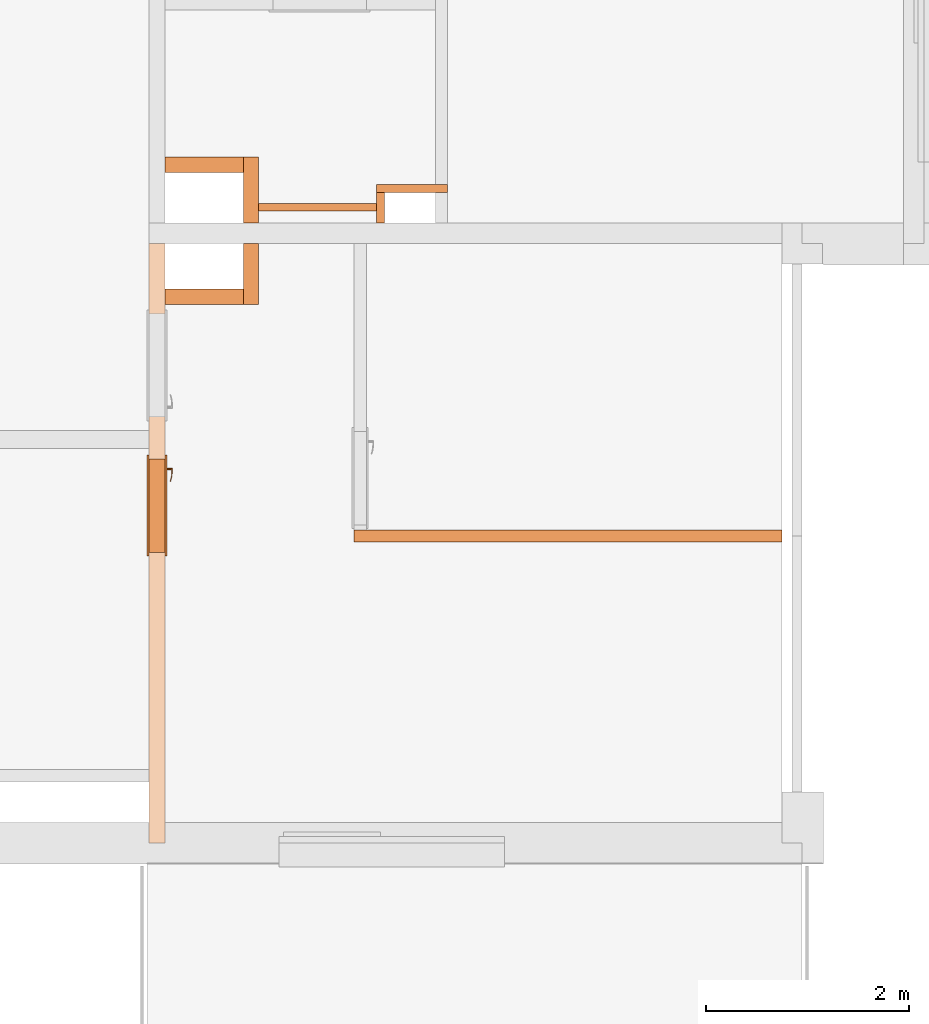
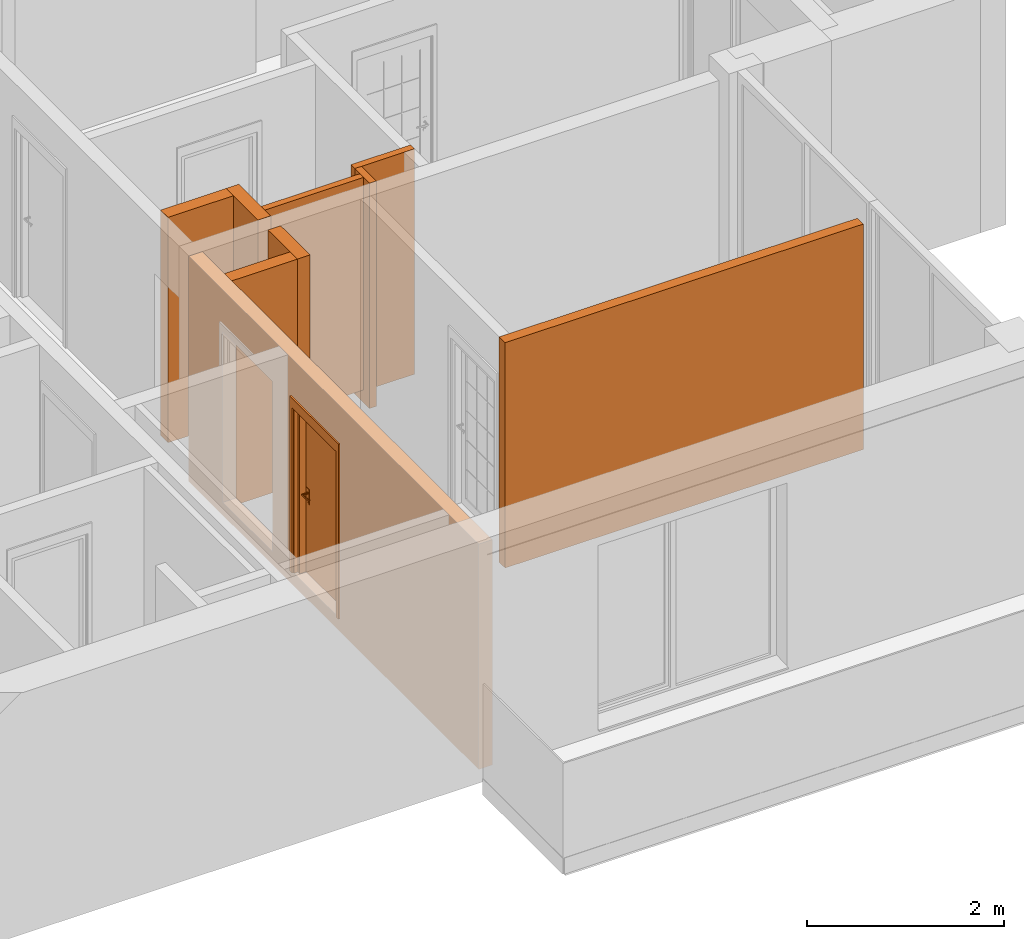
# One storey, part 62 of 64: 9 proxies, 2 openings, plus 1 element that does not belong to this part.
"""IFC2X3 building model written with IfcOpenShell, lengths in millimetres."""

import ifcopenshell
import ifcopenshell.guid

model = None  # the IFC model being written
_history = None  # IfcOwnerHistory: only IFC2X3 demands one
_inside = {}  # id of a spatial element -> (the spatial element, [elements in it])
_under = {}  # id of a project, library or spatial element -> (it, [spatial elements below it])
_declared = {}  # id of a project -> (the project, [libraries it declares])
_typed = {}  # id of a type object -> (the type object, [elements of that type])
_made_of = {}  # id of a material, layer set ... -> (it, [elements and type objects made of it])


def new_model(schema):
    """Start an empty IFC model of exactly this schema.

    Asked for "IFC4X3", IfcOpenShell would pick the latest addendum, in which some entities
    have other attributes; the version numbers below select the first issue.
    IFC2X3 requires an IfcOwnerHistory on every rooted entity: one is made here for all.
    """
    global model, _history
    if schema == "IFC4X3":
        model = ifcopenshell.file(schema_version=(4, 3, 0, 0))
    else:
        model = ifcopenshell.file(schema=schema)
    _inside.clear()
    _under.clear()
    _declared.clear()
    _typed.clear()
    _made_of.clear()
    _history = None
    if model.schema == "IFC2X3":
        org = make("IfcOrganization", Name="unknown")
        user = make(
            "IfcPersonAndOrganization",
            ThePerson=make("IfcPerson", FamilyName="unknown"),
            TheOrganization=org,
        )
        app = make(
            "IfcApplication",
            ApplicationDeveloper=org,
            Version="unknown",
            ApplicationFullName="unknown",
            ApplicationIdentifier="unknown",
        )
        _history = make(
            "IfcOwnerHistory",
            OwningUser=user,
            OwningApplication=app,
            ChangeAction="ADDED",
            CreationDate=0,
        )
    return model


def make(cls, **values):
    """One entity of the class cls with the attributes given. An attribute that is None is left unset."""
    return model.create_entity(
        cls, **{name: value for name, value in values.items() if value is not None}
    )


def entity(cls, *values):
    """Any entity or typed value of the class cls, its attributes in the order of the schema. None: left unset."""
    e = model.create_entity(cls)
    for i, value in enumerate(values):
        if value is not None:
            e[i] = value
    return e


def rooted(cls, **values):
    """An entity with a GlobalId (a new one), such as an element, a storey or a relation."""
    return make(cls, GlobalId=ifcopenshell.guid.new(), OwnerHistory=_history, **values)


def si_unit(unit_type, name, prefix=None):
    """IfcSIUnit, for example si_unit("LENGTHUNIT", "METRE", prefix="MILLI")."""
    return make("IfcSIUnit", UnitType=unit_type, Prefix=prefix, Name=name)


def converted_unit(unit_type, name, factor, base, dimensions=None, offset=None):
    """IfcConversionBasedUnit, such as the inch: factor (a typed value) times the base unit."""
    return make(
        "IfcConversionBasedUnit"
        if offset is None
        else "IfcConversionBasedUnitWithOffset",
        ConversionOffset=offset,
        Dimensions=None
        if dimensions is None
        else entity("IfcDimensionalExponents", *dimensions),
        UnitType=unit_type,
        Name=name,
        ConversionFactor=make(
            "IfcMeasureWithUnit", ValueComponent=factor, UnitComponent=base
        ),
    )


def derived_unit(unit_type, elements):
    """IfcDerivedUnit: a product of units, each with its exponent."""
    return make(
        "IfcDerivedUnit",
        Elements=[
            make("IfcDerivedUnitElement", Unit=unit, Exponent=power)
            for unit, power in elements
        ],
        UnitType=unit_type,
    )


def money_unit(currency):
    """IfcMonetaryUnit."""
    return make("IfcMonetaryUnit", Currency=currency)


def assignment(units):
    """IfcUnitAssignment: the units of a project."""
    return None if units is None else make("IfcUnitAssignment", Units=units)


def point(xyz):
    """IfcCartesianPoint."""
    return None if xyz is None else make("IfcCartesianPoint", Coordinates=xyz)


def direction(xyz):
    """IfcDirection."""
    return None if xyz is None else make("IfcDirection", DirectionRatios=xyz)


def frame(location, z_axis=None, x_axis=None):
    """IfcAxis2Placement3D, a coordinate frame: its origin and axes. An axis left out is left unset."""
    return make(
        "IfcAxis2Placement3D",
        Location=point(location),
        Axis=direction(z_axis),
        RefDirection=direction(x_axis),
    )


def frame_2d(location, x_axis=None):
    """IfcAxis2Placement2D, a coordinate frame in the plane: its origin and x axis."""
    return make(
        "IfcAxis2Placement2D", Location=point(location), RefDirection=direction(x_axis)
    )


def origin_with_axes():
    """The frame at (0, 0, 0) with the z axis (0, 0, 1) and the x axis (1, 0, 0) written out."""
    return frame((0.0, 0.0, 0.0), z_axis=(0.0, 0.0, 1.0), x_axis=(1.0, 0.0, 0.0))


def origin_2d_with_axis():
    """The frame at (0, 0) in the plane with the x axis (1, 0) written out."""
    return frame_2d((0.0, 0.0), x_axis=(1.0, 0.0))


def place(relative_to, where):
    """IfcLocalPlacement: puts the frame where relative to a parent placement (None: the world)."""
    return make(
        "IfcLocalPlacement", PlacementRelTo=relative_to, RelativePlacement=where
    )


def context(
    kind, dimensions, precision=None, world=None, true_north=None, identifier=None
):
    """IfcGeometricRepresentationContext, for example the 3D "Model" context."""
    return make(
        "IfcGeometricRepresentationContext",
        ContextIdentifier=identifier,
        ContextType=kind,
        CoordinateSpaceDimension=dimensions,
        Precision=precision,
        WorldCoordinateSystem=world,
        TrueNorth=true_north,
    )


def subcontext(parent, identifier, kind, view, scale=None):
    """IfcGeometricRepresentationSubContext, for example "Body" below "Model"."""
    return make(
        "IfcGeometricRepresentationSubContext",
        ContextIdentifier=identifier,
        ContextType=kind,
        ParentContext=parent,
        TargetScale=scale,
        TargetView=view,
    )


def project(units=None, contexts=None):
    """IfcProject with its units and contexts."""
    return rooted(
        "IfcProject",
        Name="project",
        RepresentationContexts=contexts,
        UnitsInContext=assignment(units),
    )


def spatial(cls, under=None, at=None, **own):
    """A site, building, storey or space (cls), placed at a placement, below another one or the project."""
    s = rooted(cls, ObjectPlacement=at, **own)
    if under is not None:
        _under.setdefault(under.id(), (under, []))[1].append(s)
    return s


def profile(cls, at=None, kind="AREA", **sizes):
    """A parametric profile (cls). Its sizes go by their IFC names, for example OverallWidth=200.0."""
    return make(cls, ProfileType=kind, Position=at, **sizes)


def rectangle(**sizes):
    """IfcRectangleProfileDef."""
    return profile("IfcRectangleProfileDef", **sizes)


def extrude(swept, where, along, depth):
    """IfcExtrudedAreaSolid: the profile swept, set in the frame where, extruded along a direction by depth."""
    return make(
        "IfcExtrudedAreaSolid",
        SweptArea=swept,
        Position=where,
        ExtrudedDirection=direction(along),
        Depth=depth,
    )


def faces_of(points, faces, orient=None, outer=None):
    """IfcFace entities. A face is a list of loops; a loop is a list of indices into points, from 0.

    orient and outer hold one flag for each loop. By default every Orientation is true, the
    first loop of a face is its IfcFaceOuterBound and the others are IfcFaceBound.
    """
    made = []
    for i, loops in enumerate(faces):
        bounds = []
        for j, loop in enumerate(loops):
            is_outer = j == 0 if outer is None else outer[i][j]
            bounds.append(
                make(
                    "IfcFaceOuterBound" if is_outer else "IfcFaceBound",
                    Bound=make("IfcPolyLoop", Polygon=[points[k] for k in loop]),
                    Orientation=True if orient is None else orient[i][j],
                )
            )
        made.append(make("IfcFace", Bounds=bounds))
    return made


def open_shell(faces, orient=None, outer=None):
    """The faces of one IfcOpenShell. surface_model builds it on its shared points."""
    return ("IfcOpenShell", faces, orient, outer)


def faceted_brep(points, faces, orient=None, outer=None, voids=None):
    """IfcFacetedBrep: a solid bounded by flat faces; with voids (closed shells), ...WithVoids."""
    shared = [point(p) for p in points]
    hull = make("IfcClosedShell", CfsFaces=faces_of(shared, faces, orient, outer))
    if voids is None:
        return make("IfcFacetedBrep", Outer=hull)
    return make(
        "IfcFacetedBrepWithVoids",
        Outer=hull,
        Voids=[
            make(cls, CfsFaces=faces_of(shared, fs, o, b)) for cls, fs, o, b in voids
        ],
    )


def surface_model(cls, points, shells):
    """IfcFaceBasedSurfaceModel or IfcShellBasedSurfaceModel (cls): surfaces that need not close."""
    shared = [point(p) for p in points]
    made = [make(c, CfsFaces=faces_of(shared, fs, o, b)) for c, fs, o, b in shells]
    if cls == "IfcFaceBasedSurfaceModel":
        return make(cls, FbsmFaces=made)
    return make(cls, SbsmBoundary=made)


def shape(context_of_items, identifier, shape_type, items):
    """IfcShapeRepresentation: the items that make up one representation, for example the "Body"."""
    return make(
        "IfcShapeRepresentation",
        ContextOfItems=context_of_items,
        RepresentationIdentifier=identifier,
        RepresentationType=shape_type,
        Items=items,
    )


def material(Name=None, Category=None):
    """IfcMaterial."""
    return make("IfcMaterial", Name=Name, Category=Category)


def material_list(materials):
    """IfcMaterialList."""
    return make("IfcMaterialList", Materials=materials)


def made_of(thing, what):
    """Note that an element or type object is made of a material, layer set ...; save() writes the relation."""
    if what is not None:
        _made_of.setdefault(what.id(), (what, []))[1].append(thing)
    return thing


def type_object(cls, material=None, **own):
    """A type object (cls), such as IfcWallType, which elements share."""
    return made_of(rooted(cls, **own), material)


def element(
    cls,
    number,
    at=None,
    inside=None,
    cuts=None,
    type_object=None,
    material=None,
    context=None,
    identifier="Body",
    shape_type=None,
    held_by="IfcProductDefinitionShape",
    body=None,
    shapes=None,
    **own,
):
    """One element of the class cls, such as IfcWall. Its Tag is "e" and its number.

    at: its placement. inside: the storey or other place that contains it. cuts: it is an
    opening in that element (IfcRelVoidsElement). A single representation is given by context,
    identifier, shape_type and body (its items); several are given by shapes. held_by: the class
    of the entity that holds the representations. save() writes the other relations.
    """
    e = rooted(cls, Tag="e%d" % number, ObjectPlacement=at, **own)
    if body is not None:
        shapes = [shape(context, identifier, shape_type, body)]
    if shapes is not None:
        e.Representation = make(held_by, Representations=shapes)
    if inside is not None:
        _inside.setdefault(inside.id(), (inside, []))[1].append(e)
    if cuts is not None:
        rooted(
            "IfcRelVoidsElement", RelatingBuildingElement=cuts, RelatedOpeningElement=e
        )
    if type_object is not None:
        _typed.setdefault(type_object.id(), (type_object, []))[1].append(e)
    return made_of(e, material)


def fill(opening, filler):
    """IfcRelFillsElement: the door or window that sits in an opening."""
    return rooted(
        "IfcRelFillsElement",
        RelatingOpeningElement=opening,
        RelatedBuildingElement=filler,
    )


def aggregate(whole, parts):
    """IfcRelAggregates: a whole, such as a stair, and the parts it consists of."""
    return rooted("IfcRelAggregates", RelatingObject=whole, RelatedObjects=parts)


def save(model, path):
    """Write the relations noted so far, then the file.

    IfcRelAggregates (storeys below a building ...), IfcRelContainedInSpatialStructure (elements
    in a storey), IfcRelDefinesByType, IfcRelAssociatesMaterial and IfcRelDeclares: one each for
    every whole, place, type object, material and project.
    """
    for whole, parts in _under.values():
        aggregate(whole, parts)
    for where, things in _inside.values():
        rooted(
            "IfcRelContainedInSpatialStructure",
            RelatedElements=things,
            RelatingStructure=where,
        )
    for kind, things in _typed.values():
        rooted("IfcRelDefinesByType", RelatedObjects=things, RelatingType=kind)
    for what, things in _made_of.values():
        rooted("IfcRelAssociatesMaterial", RelatedObjects=things, RelatingMaterial=what)
    for by, libraries in _declared.values():
        rooted("IfcRelDeclares", RelatingContext=by, RelatedDefinitions=libraries)
    model.write(path)


model = new_model("IFC2X3")

# Units and contexts
model_context = context("Model", 3, precision=0.01, world=origin_with_axes(), true_north=direction((0.34421633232, 0.938890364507)))
body_context = subcontext(model_context, "Body", "Model", "MODEL_VIEW")
ifc_project = project(units=[si_unit("LENGTHUNIT", "METRE", prefix="MILLI"), si_unit("AREAUNIT", "SQUARE_METRE"), si_unit("VOLUMEUNIT", "CUBIC_METRE"), converted_unit("PLANEANGLEUNIT", "DEGREE", entity("IfcPlaneAngleMeasure", 0.0174532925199), si_unit("PLANEANGLEUNIT", "RADIAN"), dimensions=[0, 0, 0, 0, 0, 0, 0]), si_unit("SOLIDANGLEUNIT", "STERADIAN"), money_unit("USD"), converted_unit("TIMEUNIT", "Year", entity("IfcTimeMeasure", 31556926.0), si_unit("TIMEUNIT", "SECOND"), dimensions=[0, 0, 1, 0, 0, 0, 0]), si_unit("MASSUNIT", "GRAM", prefix="KILO"), si_unit("THERMODYNAMICTEMPERATUREUNIT", "DEGREE_CELSIUS"), si_unit("LUMINOUSINTENSITYUNIT", "LUMEN"), si_unit("ENERGYUNIT", "JOULE", prefix="MEGA"), derived_unit("THERMALCONDUCTANCEUNIT", [(si_unit("POWERUNIT", "WATT"), 1), (si_unit("LENGTHUNIT", "METRE"), -1), (si_unit("THERMODYNAMICTEMPERATUREUNIT", "KELVIN"), -1)]), derived_unit("SPECIFICHEATCAPACITYUNIT", [(si_unit("ENERGYUNIT", "JOULE"), 1), (si_unit("MASSUNIT", "GRAM", prefix="KILO"), -1), (si_unit("THERMODYNAMICTEMPERATUREUNIT", "KELVIN"), -1)]), derived_unit("MASSDENSITYUNIT", [(si_unit("MASSUNIT", "GRAM", prefix="KILO"), 1), (si_unit("VOLUMEUNIT", "CUBIC_METRE"), -1)])], contexts=[model_context])

# Site, building, storey
site_placement = place(None, origin_with_axes())
site = spatial("IfcSite", under=ifc_project, at=site_placement, Name="USTRONIE MORSKIE", CompositionType="ELEMENT")
building_placement = place(site_placement, origin_with_axes())
building = spatial("IfcBuilding", under=site, at=building_placement, Name="Budynek", CompositionType="ELEMENT")
storey_placement = place(building_placement, frame((0.0, 0.0, 7000.0), z_axis=(0.0, 0.0, 1.0), x_axis=(1.0, 0.0, 0.0)))
storey = spatial("IfcBuildingStorey", under=building, at=storey_placement, Name="PIĘTRO 2", CompositionType="ELEMENT", Elevation=7000.0)

# Proxies
ifc_material_1 = material(Name="Bloczki silikatowe")
building_element_proxy_type_1 = type_object("IfcBuildingElementProxyType", Name="Bloczki silikatowe 120", PredefinedType="NOTDEFINED")
proxy_1_placement = place(storey_placement, frame((424267.920919, 712121.199036, -160.0), z_axis=(0.0, 0.0, 1.0), x_axis=(-1.0, 0.0, 0.0)))
element("IfcBuildingElementProxy", 1, at=proxy_1_placement, inside=storey, type_object=building_element_proxy_type_1, material=ifc_material_1, Name="SW-04", context=body_context, shape_type="Brep", body=[
    faceted_brep([(4210.0, -59.9999999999, 2800.0), (4210.0, 59.9999999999, 2800.0), (0.0, 59.9999999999, 2800.0), (0.0, -59.9999999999, 2800.0), (4210.0, -59.9999999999, 0.0), (4210.0, 59.9999999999, 0.0), (0.0, 59.9999999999, 0.0), (0.0, -59.9999999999, 0.0)], [[[0, 1, 2, 3]], [[1, 0, 4, 5]], [[1, 5, 6, 2]], [[7, 3, 2, 6]], [[4, 0, 3, 7]], [[5, 4, 7, 6]]]),
])
ifc_material_2 = material(Name="-Pustka powietrzna")
ifc_material_3 = material(Name="Płyta GK")
ifc_material_list = material_list([ifc_material_2, ifc_material_3, ifc_material_3])
building_element_proxy_type_2 = type_object("IfcBuildingElementProxyType", Name="330-SD GK 2-warstwy 75", PredefinedType="NOTDEFINED")
proxy_2_placement = place(storey_placement, frame((420317.920919, 715371.200737, -180.0), z_axis=(0.0, 0.0, 1.0), x_axis=(-1.0, 0.0, 0.0)))
element("IfcBuildingElementProxy", 2, at=proxy_2_placement, inside=storey, type_object=building_element_proxy_type_2, material=ifc_material_list, Name="Ściana-009", context=body_context, shape_type="Brep", body=[
    faceted_brep([(40.0, 50.0, 180.0), (40.0, 0.0, 180.0), (40.0, 0.0, 2820.0), (40.0, 50.0, 2820.0), (1199.99909883, 0.0, 180.0), (1199.99909883, 50.0, 180.0), (1199.99909883, 0.0, 2820.0), (1199.99909883, 50.0, 2820.0)], [[[0, 1, 2, 3]], [[4, 1, 0, 5]], [[1, 4, 6, 2]], [[7, 3, 2, 6]], [[5, 0, 3, 7]], [[4, 5, 7, 6]]]),
    faceted_brep([(40.0, 0.0, 165.0), (40.0, -12.5, 165.0), (40.0, -12.5, 2820.0), (40.0, 0.0, 2820.0), (1199.99909883, -12.5, 165.0), (1199.99909883, 0.0, 165.0), (1199.99909883, -12.5, 2820.0), (1199.99909883, 0.0, 2820.0)], [[[0, 1, 2, 3]], [[4, 1, 0, 5]], [[1, 4, 6, 2]], [[7, 3, 2, 6]], [[5, 0, 3, 7]], [[4, 5, 7, 6]]]),
    faceted_brep([(40.0, -12.5, 165.0), (40.0, -25.0, 165.0), (40.0, -25.0, 2820.0), (40.0, -12.5, 2820.0), (1199.99909883, -25.0, 165.0), (1199.99909883, -12.5, 165.0), (1199.99909883, -25.0, 2820.0), (1199.99909883, -12.5, 2820.0)], [[[0, 1, 2, 3]], [[4, 1, 0, 5]], [[1, 4, 6, 2]], [[7, 3, 2, 6]], [[5, 0, 3, 7]], [[4, 5, 7, 6]]]),
])
building_element_proxy_type_3 = type_object("IfcBuildingElementProxyType", Name="Bloczki silikatowe 80", PredefinedType="NOTDEFINED")
proxy_3_placement = place(storey_placement, frame((420917.920919, 715541.218191, -160.0), z_axis=(0.0, 0.0, 1.0), x_axis=(-1.0, 0.0, 0.0)))
element("IfcBuildingElementProxy", 3, at=proxy_3_placement, inside=storey, type_object=building_element_proxy_type_3, material=ifc_material_1, Name="Ściana-009", context=body_context, shape_type="Brep", body=[
    faceted_brep([(640.0, -40.0, 2800.0), (640.0, 40.0, 2800.0), (-60.0, 40.0, 2800.0), (-60.0, -40.0, 2800.0), (640.0, -40.0, 0.0), (640.0, 40.0, 0.0), (-60.0, 40.0, 0.0), (-60.0, -40.0, 0.0)], [[[0, 1, 2, 3]], [[1, 0, 4, 5]], [[1, 5, 6, 2]], [[7, 3, 2, 6]], [[4, 0, 3, 7]], [[5, 4, 7, 6]]]),
])
proxy_4_placement = place(storey_placement, frame((420317.920919, 715101.199036, -160.0), z_axis=(0.0, 0.0, 1.0), x_axis=(0.0, 1.0, 0.0)))
element("IfcBuildingElementProxy", 4, at=proxy_4_placement, inside=storey, type_object=building_element_proxy_type_3, material=ifc_material_1, Name="Ściana-010", context=body_context, shape_type="Brep", body=[
    faceted_brep([(400.01915523, -40.0, 2800.0), (400.01915523, 40.0, 2800.0), (100.0, 40.0, 2800.0), (100.0, -40.0, 2800.0), (400.01915523, -40.0, 0.0), (400.01915523, 40.0, 0.0), (100.0, 40.0, 0.0), (100.0, -40.0, 0.0)], [[[0, 1, 2, 3]], [[1, 0, 4, 5]], [[1, 5, 6, 2]], [[7, 3, 2, 6]], [[4, 0, 3, 7]], [[5, 4, 7, 6]]]),
])
building_element_proxy_type_4 = type_object("IfcBuildingElementProxyType", Name="Bloczki silikatowe 150", PredefinedType="NOTDEFINED")
proxy_5_placement = place(storey_placement, frame((419042.92182, 715101.199036, -160.0), z_axis=(0.0, 0.0, 1.0), x_axis=(0.0, 1.0, 0.0)))
element("IfcBuildingElementProxy", 5, at=proxy_5_placement, inside=storey, type_object=building_element_proxy_type_4, material=ifc_material_1, Name="Ściana-009", context=body_context, shape_type="Brep", body=[
    faceted_brep([(750.001977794, 75.0, 2800.0), (100.0, 75.0, 2800.0), (100.0, -75.0, 2800.0), (750.001977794, -75.0, 2800.0), (750.001977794, 75.0, 0.0), (100.0, 75.0, 0.0), (100.0, -75.0, 0.0), (750.001977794, -75.0, 0.0)], [[[0, 1, 2, 3]], [[4, 5, 1, 0]], [[5, 6, 2, 1]], [[3, 2, 6, 7]], [[7, 4, 0, 3]], [[7, 6, 5, 4]]]),
])
proxy_6_placement = place(storey_placement, frame((419042.92182, 714476.199036, -160.0), z_axis=(0.0, 0.0, 1.0), x_axis=(-1.0, 0.0, 0.0)))
element("IfcBuildingElementProxy", 6, at=proxy_6_placement, inside=storey, type_object=building_element_proxy_type_4, material=ifc_material_1, Name="SW-03", context=body_context, shape_type="Brep", body=[
    faceted_brep([(845.00090117, -75.0, 2800.0), (845.00090117, 75.0, 2800.0), (75.0, 75.0, 2800.0), (75.0, -75.0, 2800.0), (845.00090117, -75.0, 0.0), (845.00090117, 75.0, 0.0), (75.0, 75.0, 0.0), (75.0, -75.0, 0.0)], [[[0, 1, 2, 3]], [[1, 0, 4, 5]], [[1, 5, 6, 2]], [[7, 3, 2, 6]], [[4, 0, 3, 7]], [[5, 4, 7, 6]]]),
])
proxy_7_placement = place(storey_placement, frame((419042.92182, 715776.201014, -160.0), z_axis=(0.0, 0.0, 1.0), x_axis=(-1.0, 0.0, 0.0)))
element("IfcBuildingElementProxy", 7, at=proxy_7_placement, inside=storey, type_object=building_element_proxy_type_4, material=ifc_material_1, Name="Ściana-009", context=body_context, shape_type="Brep", body=[
    faceted_brep([(845.00090117, -75.0, 2800.0), (845.00090117, 75.0, 2800.0), (75.0, 75.0, 2800.0), (75.0, -75.0, 2800.0), (845.00090117, -75.0, 0.0), (845.00090117, 75.0, 0.0), (75.0, 75.0, 0.0), (75.0, -75.0, 0.0)], [[[0, 1, 2, 3]], [[1, 0, 4, 5]], [[1, 5, 6, 2]], [[7, 3, 2, 6]], [[4, 0, 3, 7]], [[5, 4, 7, 6]]]),
])
proxy_8_placement = place(storey_placement, frame((419042.92182, 715101.199036, -160.0), z_axis=(0.0, 0.0, 1.0), x_axis=(0.0, -1.0, 0.0)))
element("IfcBuildingElementProxy", 8, at=proxy_8_placement, inside=storey, type_object=building_element_proxy_type_4, material=ifc_material_1, Name="SW-03", context=body_context, shape_type="Brep", body=[
    faceted_brep([(700.0, 75.0, 0.0), (700.0, -75.0, 0.0), (100.0, -75.0, 0.0), (100.0, 75.0, 0.0), (700.0, 75.0, 2800.0), (700.0, -75.0, 2800.0), (100.0, -75.0, 2800.0), (100.0, 75.0, 2800.0)], [[[0, 1, 2, 3]], [[1, 0, 4, 5]], [[1, 5, 6, 2]], [[7, 3, 2, 6]], [[4, 0, 3, 7]], [[5, 4, 7, 6]]]),
])

# Proxies, openings
ifc_material_4 = material(Name="Beton konstrukcyjny B25")
building_element_proxy_type_5 = type_object("IfcBuildingElementProxyType", Name="Beton konstrukcyjny B25 160", PredefinedType="NOTDEFINED")
proxy_9_placement = place(storey_placement, frame((418117.920919, 715101.199036, -160.0), z_axis=(0.0, 0.0, 1.0), x_axis=(0.0, -1.0, 0.0)))
proxy_9 = element("IfcBuildingElementProxy", 9, at=proxy_9_placement, inside=storey, type_object=building_element_proxy_type_5, material=ifc_material_4, Name="SW-01", context=body_context, shape_type="Brep", body=[
    faceted_brep([(6000.0, 80.0, 0.0), (100.0, 80.0, 0.0), (100.0, 80.0, 2800.0), (6000.0, 80.0, 2800.0), (6000.0, -80.0, 0.0), (100.0, -80.0, 0.0), (100.0, -80.0, 2800.0), (6000.0, -80.0, 2800.0)], [[[0, 1, 2, 3]], [[4, 5, 1, 0]], [[5, 6, 2, 1]], [[3, 2, 6, 7]], [[3, 7, 4, 0]], [[7, 6, 5, 4]]]),
])
opening_1_placement = place(proxy_9_placement, frame((1300.00000044, 0.0, 160.0), z_axis=(0.0, 0.0, 1.0), x_axis=(1.0, 0.0, 0.0)))
element("IfcOpeningElement", 10, at=opening_1_placement, cuts=proxy_9, Name="Dw.1", context=body_context, shape_type="SweptSolid", body=[
    extrude(rectangle(XDim=1020.0, YDim=2120.0, at=origin_2d_with_axis()), frame((0.0, -160.0, 1060.0), z_axis=(0.0, -1.0, 0.0), x_axis=(-1.0, 0.0, 0.0)), (0.0, 0.0, -1.0), 480.0),
    extrude(rectangle(XDim=1094.0, YDim=2227.0, at=origin_2d_with_axis()), frame((0.0, -80.0, 1113.5), z_axis=(0.0, -1.0, 0.0), x_axis=(-1.0, 0.0, 0.0)), (0.0, 0.0, 1.0), 160.0),
    extrude(rectangle(XDim=1094.0, YDim=2227.0, at=origin_2d_with_axis()), frame((0.0, 80.0, 1113.5), z_axis=(0.0, 1.0, 0.0), x_axis=(-1.0, 0.0, 0.0)), (0.0, 0.0, 1.0), 160.0),
])
opening_2_placement = place(proxy_9_placement, frame((2680.00000044, 0.0, 160.0), z_axis=(0.0, 0.0, 1.0), x_axis=(1.0, 0.0, 0.0)))
opening_2 = element("IfcOpeningElement", 11, at=opening_2_placement, cuts=proxy_9, Name="Dw.4", context=body_context, shape_type="SweptSolid", body=[
    extrude(rectangle(XDim=920.0, YDim=2070.0, at=origin_2d_with_axis()), frame((0.0, -160.0, 1035.0), z_axis=(0.0, 1.0, 0.0), x_axis=(1.0, 0.0, 0.0)), (0.0, 0.0, 1.0), 480.0),
    extrude(rectangle(XDim=994.0, YDim=2177.0, at=origin_2d_with_axis()), frame((0.0, -80.0, 1088.5), z_axis=(0.0, 1.0, 0.0), x_axis=(1.0, 0.0, 0.0)), (0.0, 0.0, -1.0), 160.0),
    extrude(rectangle(XDim=994.0, YDim=2177.0, at=origin_2d_with_axis()), frame((0.0, 80.0, 1088.5), z_axis=(0.0, -1.0, 0.0), x_axis=(1.0, 0.0, 0.0)), (0.0, 0.0, -1.0), 160.0),
])
building_element_proxy_type_6 = type_object("IfcBuildingElementProxyType", Name="Drzwi 23", PredefinedType="NOTDEFINED")
proxy_10_placement = place(opening_2_placement, frame((-400.0, 0.0, 0.0), z_axis=(0.0, 0.0, 1.0), x_axis=(1.0, 0.0, 0.0)))
proxy_10 = element("IfcBuildingElementProxy", 12, at=proxy_10_placement, inside=storey, type_object=building_element_proxy_type_6, Name="Dw.4", context=body_context, shape_type="SurfaceModel", body=[
    faceted_brep([(-60.0000000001, -35.0, 0.0), (-35.0, -35.0, 0.0), (-35.0, -80.0, 0.0), (-60.0000000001, -80.0, 0.0), (-60.0000000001, -35.0, 2070.0), (-35.0, -35.0, 2045.0), (-35.0, -80.0, 2045.0), (-60.0000000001, -80.0, 2070.0)], [[[0, 1, 2, 3]], [[0, 4, 5, 1]], [[1, 5, 6, 2]], [[3, 2, 6, 7]], [[4, 0, 3, 7]], [[5, 4, 7, 6]]]),
    faceted_brep([(860.0, -35.0, 2070.0), (835.0, -35.0, 2045.0), (835.0, -80.0, 2045.0), (860.0, -80.0, 2070.0), (860.0, -35.0, 0.0), (835.0, -35.0, 0.0), (835.0, -80.0, 0.0), (860.0, -80.0, 0.0)], [[[0, 1, 2, 3]], [[0, 4, 5, 1]], [[1, 5, 6, 2]], [[3, 2, 6, 7]], [[4, 0, 3, 7]], [[5, 4, 7, 6]]]),
    faceted_brep([(-35.0, -35.0, 2045.0), (835.0, -35.0, 2045.0), (835.0, -80.0, 2045.0), (-35.0, -80.0, 2045.0), (-60.0000000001, -35.0, 2070.0), (860.0, -35.0, 2070.0), (860.0, -80.0, 2070.0), (-60.0000000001, -80.0, 2070.0)], [[[0, 1, 2, 3]], [[0, 4, 5, 1]], [[1, 5, 6, 2]], [[3, 2, 6, 7]], [[4, 0, 3, 7]], [[5, 4, 7, 6]]]),
    faceted_brep([(-97.0, -98.9999999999, 0.0), (-97.0, -80.0, 0.0), (-47.0, -80.0, 0.0), (-47.0, -98.9999999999, 0.0), (-97.0, -98.9999999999, 2177.0), (-97.0, -80.0, 2177.0), (-47.0, -80.0, 2057.0), (-47.0, -98.9999999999, 2057.0)], [[[0, 1, 2, 3]], [[4, 5, 1, 0]], [[1, 5, 6, 2]], [[3, 2, 6, 7]], [[0, 3, 7, 4]], [[7, 6, 5, 4]]]),
    faceted_brep([(897.0, -98.9999999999, 2177.0), (897.0, -80.0, 2177.0), (847.0, -80.0, 2057.0), (847.0, -98.9999999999, 2057.0), (897.0, -98.9999999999, 0.0), (897.0, -80.0, 0.0), (847.0, -80.0, 0.0), (847.0, -98.9999999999, 0.0)], [[[0, 1, 2, 3]], [[4, 5, 1, 0]], [[1, 5, 6, 2]], [[3, 2, 6, 7]], [[0, 3, 7, 4]], [[7, 6, 5, 4]]]),
    faceted_brep([(-97.0, -98.9999999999, 2177.0), (-97.0, -80.0, 2177.0), (-47.0, -80.0, 2057.0), (-47.0, -98.9999999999, 2057.0), (897.0, -98.9999999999, 2177.0), (897.0, -80.0, 2177.0), (847.0, -80.0, 2057.0), (847.0, -98.9999999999, 2057.0)], [[[0, 1, 2, 3]], [[4, 5, 1, 0]], [[1, 5, 6, 2]], [[3, 2, 6, 7]], [[0, 3, 7, 4]], [[7, 6, 5, 4]]]),
    faceted_brep([(-97.0, 99.0, 0.0), (-47.0, 99.0, 0.0), (-47.0, 80.0, 0.0), (-97.0, 80.0, 0.0), (-97.0, 99.0, 2177.0), (-47.0, 99.0, 2057.0), (-47.0, 80.0, 2057.0), (-97.0, 80.0, 2177.0)], [[[0, 1, 2, 3]], [[0, 4, 5, 1]], [[1, 5, 6, 2]], [[3, 2, 6, 7]], [[4, 0, 3, 7]], [[5, 4, 7, 6]]]),
    faceted_brep([(897.0, 99.0, 2177.0), (847.0, 99.0, 2057.0), (847.0, 80.0, 2057.0), (897.0, 80.0, 2177.0), (897.0, 99.0, 0.0), (847.0, 99.0, 0.0), (847.0, 80.0, 0.0), (897.0, 80.0, 0.0)], [[[0, 1, 2, 3]], [[0, 4, 5, 1]], [[1, 5, 6, 2]], [[3, 2, 6, 7]], [[4, 0, 3, 7]], [[5, 4, 7, 6]]]),
    faceted_brep([(-97.0, 99.0, 2177.0), (-47.0, 99.0, 2057.0), (-47.0, 80.0, 2057.0), (-97.0, 80.0, 2177.0), (897.0, 99.0, 2177.0), (847.0, 99.0, 2057.0), (847.0, 80.0, 2057.0), (897.0, 80.0, 2177.0)], [[[0, 1, 2, 3]], [[0, 4, 5, 1]], [[1, 5, 6, 2]], [[3, 2, 6, 7]], [[4, 0, 3, 7]], [[5, 4, 7, 6]]]),
    faceted_brep([(0.0, 40.0, 0.0), (0.0, 40.0, 2000.0), (0.0, -35.0, 2000.0), (0.0, -35.0, 0.0), (-12.0000000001, 40.0, 2000.0), (-12.0000000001, 40.0, 0.0), (-12.0000000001, 80.0, 2000.0), (-60.0000000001, 80.0, 2000.0), (-60.0000000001, -35.0, 2000.0), (-60.0000000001, -35.0, 0.0), (-60.0000000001, 80.0, 0.0), (-12.0000000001, 80.0, 0.0)], [[[0, 1, 2, 3]], [[4, 1, 0, 5]], [[4, 6, 7, 8, 2, 1]], [[3, 2, 8, 9]], [[5, 0, 3, 9, 10, 11]], [[6, 4, 5, 11]], [[6, 11, 10, 7]], [[10, 9, 8, 7]]]),
    faceted_brep([(812.0, 40.0, 2000.0), (800.0, 40.0, 2000.0), (800.0, -35.0, 2000.0), (860.0, -35.0, 2000.0), (860.0, 80.0, 2000.0), (812.0, 80.0, 2000.0), (812.0, 40.0, 0.0), (800.0, 40.0, 0.0), (800.0, -35.0, 0.0), (860.0, -35.0, 0.0), (860.0, 80.0, 0.0), (812.0, 80.0, 0.0)], [[[0, 1, 2, 3, 4, 5]], [[1, 0, 6, 7]], [[1, 7, 8, 2]], [[3, 2, 8, 9]], [[4, 3, 9, 10]], [[11, 5, 4, 10]], [[0, 5, 11, 6]], [[6, 11, 10, 9, 8, 7]]]),
    faceted_brep([(-12.0000000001, 80.0, 2012.0), (-12.0000000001, 80.0, 2000.0), (-60.0000000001, 80.0, 2000.0), (-60.0000000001, 80.0, 2070.0), (860.0, 80.0, 2070.0), (860.0, 80.0, 2000.0), (812.0, 80.0, 2000.0), (812.0, 80.0, 2012.0), (-12.0000000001, 40.0, 2012.0), (-12.0000000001, 40.0, 2000.0), (0.0, 40.0, 2000.0), (0.0, -35.0, 2000.0), (-60.0000000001, -35.0, 2000.0), (-60.0000000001, -35.0, 2070.0), (860.0, -35.0, 2070.0), (860.0, -35.0, 2000.0), (812.0, 40.0, 2000.0), (800.0, -35.0, 2000.0), (800.0, 40.0, 2000.0), (812.0, 40.0, 2012.0)], [[[0, 1, 2, 3, 4, 5, 6, 7]], [[1, 0, 8, 9]], [[9, 10, 11, 12, 2, 1]], [[2, 12, 13, 3]], [[3, 13, 14, 4]], [[4, 14, 15, 5]], [[16, 6, 5, 15, 17, 18]], [[7, 6, 16, 19]], [[0, 7, 19, 8]], [[16, 18, 10, 9, 8, 19]], [[10, 18, 17, 11]], [[17, 15, 14, 13, 12, 11]]]),
    faceted_brep([(9.5, 40.0, 1060.0), (9.5, 37.0, 1060.0), (66.5, 37.0, 1060.0), (66.5, 40.0, 1060.0), (9.5, 40.0, 870.0), (9.5, 37.0, 870.0), (66.5, 37.0, 870.0), (66.5, 40.0, 870.0)], [[[0, 1, 2, 3]], [[4, 5, 1, 0]], [[1, 5, 6, 2]], [[3, 2, 6, 7]], [[0, 3, 7, 4]], [[7, 6, 5, 4]]]),
    faceted_brep([(38.0, -23.9999999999, 990.0), (38.0, -30.9999999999, 990.0), (33.0, -30.9999999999, 991.339745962), (33.0, -23.9999999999, 991.339745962), (63.0, -23.9999999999, 990.0), (63.0, -30.9999999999, 990.0), (63.0, -30.9999999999, 1010.0), (38.0, -30.9999999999, 1010.0), (33.0, -30.9999999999, 1008.66025404), (29.3397459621, -30.9999999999, 1005.0), (28.0, -30.9999999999, 1000.0), (29.3397459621, -30.9999999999, 995.0), (29.3397459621, -23.9999999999, 995.0), (28.0, -23.9999999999, 1000.0), (29.3397459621, -23.9999999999, 1005.0), (33.0, -23.9999999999, 1008.66025404), (38.0, -23.9999999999, 1010.0), (63.0, -23.9999999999, 1010.0)], [[[0, 1, 2, 3]], [[4, 5, 1, 0]], [[1, 5, 6, 7, 8, 9, 10, 11, 2]], [[3, 2, 11, 12]], [[0, 3, 12, 13, 14, 15, 16, 17, 4]], [[17, 6, 5, 4]], [[16, 7, 6, 17]], [[15, 8, 7, 16]], [[14, 9, 8, 15]], [[13, 10, 9, 14]], [[12, 11, 10, 13]]]),
    surface_model("IfcShellBasedSurfaceModel", [(63.0, -23.9999999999, 1010.0), (76.4039094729, -30.9999999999, 1009.60730092), (76.0982828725, -23.9999999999, 1009.60730092), (63.0, -30.9999999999, 1010.0), (103.109716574, -28.6635446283, 1008.82190275), (76.0982828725, -23.9999999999, 990.392699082), (63.0, -23.9999999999, 990.0), (63.0, -30.9999999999, 990.0), (76.4039094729, -30.9999999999, 990.392699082), (103.109716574, -28.6635446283, 991.178097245), (102.195162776, -21.716818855, 1008.82190275), (102.195162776, -21.716818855, 991.178097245), (129.510264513, -24.0084157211, 991.963495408), (129.510264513, -24.0084157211, 1008.03650459), (127.993743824, -17.1678329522, 1008.03650459), (127.993743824, -17.1678329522, 991.963495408), (155.40462918, -17.0700416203, 992.748893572), (155.40462918, -17.0700416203, 1007.25110643), (153.297683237, -10.3876628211, 1007.25110643), (153.297683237, -10.3876628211, 992.748893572), (163.461204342, -14.1376880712, 993.0), (163.461204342, -14.1376880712, 1007.0), (161.170557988, -7.52217075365, 1007.0), (161.170557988, -7.52217075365, 993.0)], [open_shell([[[0, 1, 2]], [[0, 3, 1]], [[2, 1, 4]], [[0, 2, 5, 6]], [[3, 7, 8, 1]], [[1, 8, 9, 4]], [[2, 4, 10]], [[2, 10, 11, 5]], [[5, 7, 6]], [[5, 8, 7]], [[11, 9, 8]], [[4, 9, 12, 13]], [[10, 4, 13]], [[10, 14, 15, 11]], [[11, 8, 5]], [[15, 9, 11]], [[15, 12, 9]], [[13, 12, 16, 17]], [[10, 13, 14]], [[14, 18, 19, 15]], [[19, 12, 15]], [[19, 16, 12]], [[17, 16, 20, 21]], [[14, 13, 17]], [[14, 17, 18]], [[18, 22, 23, 19]], [[23, 16, 19]], [[23, 20, 16]], [[22, 21, 20, 23]], [[18, 17, 21]], [[18, 21, 22]]])]),
    faceted_brep([(48.3923048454, 27.0, 994.0), (49.2583302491, 37.0, 993.5), (50.9999999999, 37.0, 1000.0), (50.0, 27.0, 1000.0), (44.0, 27.0, 989.607695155), (44.5, 37.0, 988.741669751), (38.0, 37.0, 987.0), (31.4999999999, 37.0, 988.741669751), (26.7416697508, 37.0, 993.5), (25.0, 37.0, 1000.0), (26.7416697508, 37.0, 1006.5), (31.4999999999, 37.0, 1011.25833025), (38.0, 37.0, 1013.0), (44.5, 37.0, 1011.25833025), (49.2583302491, 37.0, 1006.5), (48.3923048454, 27.0, 1006.0), (44.0, 27.0, 1010.39230485), (38.0, 27.0, 1012.0), (31.9999999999, 27.0, 1010.39230485), (27.6076951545, 27.0, 1006.0), (26.0, 27.0, 1000.0), (27.6076951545, 27.0, 994.0), (31.9999999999, 27.0, 989.607695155), (38.0, 27.0, 988.0)], [[[0, 1, 2, 3]], [[4, 5, 1, 0]], [[2, 1, 5, 6, 7, 8, 9, 10, 11, 12, 13, 14]], [[3, 2, 14, 15]], [[3, 15, 16, 17, 18, 19, 20, 21, 22, 23, 4, 0]], [[23, 6, 5, 4]], [[22, 7, 6, 23]], [[21, 8, 7, 22]], [[20, 9, 8, 21]], [[19, 10, 9, 20]], [[18, 11, 10, 19]], [[17, 12, 11, 18]], [[16, 13, 12, 17]], [[15, 14, 13, 16]]]),
    faceted_brep([(55.3205080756, 33.0, 895.0), (57.0525588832, 37.0, 894.0), (59.9999999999, 37.0, 905.0), (58.0, 33.0, 905.0), (48.0, 33.0, 887.679491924), (49.0, 37.0, 885.947441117), (38.0, 37.0, 883.0), (26.9999999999, 37.0, 885.947441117), (18.9474411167, 37.0, 894.0), (16.0, 37.0, 905.0), (18.9474411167, 37.0, 916.0), (26.9999999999, 37.0, 924.052558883), (38.0, 37.0, 927.0), (49.0, 37.0, 924.052558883), (57.0525588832, 37.0, 916.0), (55.3205080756, 33.0, 915.0), (48.0, 33.0, 922.320508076), (38.0, 33.0, 925.0), (28.0, 33.0, 922.320508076), (20.6794919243, 33.0, 915.0), (18.0, 33.0, 905.0), (20.6794919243, 33.0, 895.0), (28.0, 33.0, 887.679491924), (38.0, 33.0, 885.0)], [[[0, 1, 2, 3]], [[4, 5, 1, 0]], [[2, 1, 5, 6, 7, 8, 9, 10, 11, 12, 13, 14]], [[3, 2, 14, 15]], [[3, 15, 16, 17, 18, 19, 20, 21, 22, 23, 4, 0]], [[23, 6, 5, 4]], [[22, 7, 6, 23]], [[21, 8, 7, 22]], [[20, 9, 8, 21]], [[19, 10, 9, 20]], [[18, 11, 10, 19]], [[17, 12, 11, 18]], [[16, 13, 12, 17]], [[15, 14, 13, 16]]]),
    faceted_brep([(42.9497474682, 31.0000000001, 909.050252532), (43.6568542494, 33.0, 908.343145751), (45.9999999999, 33.0, 914.0), (45.0, 31.0000000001, 914.0), (38.0, 31.0000000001, 907.0), (38.0, 33.0, 906.0), (32.3431457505, 33.0, 908.343145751), (30.0, 33.0, 914.0), (32.3431457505, 33.0, 919.656854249), (38.0, 33.0, 922.0), (43.6568542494, 33.0, 919.656854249), (42.9497474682, 31.0000000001, 918.949747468), (38.0, 31.0000000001, 921.0), (33.0502525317, 31.0000000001, 918.949747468), (30.9999999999, 31.0000000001, 914.0), (33.0502525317, 31.0000000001, 909.050252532)], [[[0, 1, 2, 3]], [[4, 5, 1, 0]], [[2, 1, 5, 6, 7, 8, 9, 10]], [[3, 2, 10, 11]], [[3, 11, 12, 13, 14, 15, 4, 0]], [[15, 6, 5, 4]], [[14, 7, 6, 15]], [[13, 8, 7, 14]], [[12, 9, 8, 13]], [[11, 10, 9, 12]]]),
    faceted_brep([(38.0, 27.0, 1010.0), (38.0, -23.9999999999, 1010.0), (43.0, -23.9999999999, 1008.66025404), (43.0, 27.0, 1008.66025404), (33.0, 27.0, 1008.66025404), (33.0, -23.9999999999, 1008.66025404), (29.3397459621, -23.9999999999, 1005.0), (28.0, -23.9999999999, 1000.0), (29.3397459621, -23.9999999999, 995.0), (33.0, -23.9999999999, 991.339745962), (38.0, -23.9999999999, 990.0), (43.0, -23.9999999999, 991.339745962), (46.6602540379, -23.9999999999, 995.0), (48.0, -23.9999999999, 1000.0), (46.6602540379, -23.9999999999, 1005.0), (46.6602540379, 27.0, 1005.0), (48.0, 27.0, 1000.0), (46.6602540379, 27.0, 995.0), (43.0, 27.0, 991.339745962), (38.0, 27.0, 990.0), (33.0, 27.0, 991.339745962), (29.3397459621, 27.0, 995.0), (28.0, 27.0, 1000.0), (29.3397459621, 27.0, 1005.0)], [[[0, 1, 2, 3]], [[4, 5, 1, 0]], [[1, 5, 6, 7, 8, 9, 10, 11, 12, 13, 14, 2]], [[3, 2, 14, 15]], [[0, 3, 15, 16, 17, 18, 19, 20, 21, 22, 23, 4]], [[23, 6, 5, 4]], [[22, 7, 6, 23]], [[21, 8, 7, 22]], [[20, 9, 8, 21]], [[19, 10, 9, 20]], [[18, 11, 10, 19]], [[17, 12, 11, 18]], [[16, 13, 12, 17]], [[15, 14, 13, 16]]]),
    faceted_brep([(9.5, 80.0, 1060.0), (66.5, 80.0, 1060.0), (66.5, 83.0, 1060.0), (9.5, 83.0, 1060.0), (9.5, 80.0, 870.0), (66.5, 80.0, 870.0), (66.5, 83.0, 870.0), (9.5, 83.0, 870.0)], [[[0, 1, 2, 3]], [[0, 4, 5, 1]], [[1, 5, 6, 2]], [[3, 2, 6, 7]], [[4, 0, 3, 7]], [[5, 4, 7, 6]]]),
    faceted_brep([(38.0, 144.0, 990.0), (33.0, 144.0, 991.339745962), (33.0, 151.0, 991.339745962), (38.0, 151.0, 990.0), (63.0, 144.0, 990.0), (63.0, 144.0, 1010.0), (38.0, 144.0, 1010.0), (33.0, 144.0, 1008.66025404), (29.3397459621, 144.0, 1005.0), (28.0, 144.0, 1000.0), (29.3397459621, 144.0, 995.0), (29.3397459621, 151.0, 995.0), (28.0, 151.0, 1000.0), (29.3397459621, 151.0, 1005.0), (33.0, 151.0, 1008.66025404), (38.0, 151.0, 1010.0), (63.0, 151.0, 1010.0), (63.0, 151.0, 990.0)], [[[0, 1, 2, 3]], [[0, 4, 5, 6, 7, 8, 9, 10, 1]], [[1, 10, 11, 2]], [[3, 2, 11, 12, 13, 14, 15, 16, 17]], [[4, 0, 3, 17]], [[5, 4, 17, 16]], [[6, 5, 16, 15]], [[7, 6, 15, 14]], [[8, 7, 14, 13]], [[9, 8, 13, 12]], [[10, 9, 12, 11]]]),
    surface_model("IfcShellBasedSurfaceModel", [(63.0, 144.0, 1010.0), (76.0982828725, 144.0, 1009.60730092), (76.4039094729, 151.0, 1009.60730092), (63.0, 144.0, 990.0), (76.0982828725, 144.0, 990.392699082), (103.109716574, 148.663544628, 1008.82190275), (63.0, 151.0, 1010.0), (63.0, 151.0, 990.0), (102.195162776, 141.716818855, 991.178097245), (102.195162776, 141.716818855, 1008.82190275), (103.109716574, 148.663544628, 991.178097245), (76.4039094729, 151.0, 990.392699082), (127.993743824, 137.167832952, 991.963495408), (127.993743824, 137.167832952, 1008.03650459), (129.510264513, 144.008415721, 1008.03650459), (129.510264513, 144.008415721, 991.963495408), (153.297683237, 130.387662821, 992.748893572), (153.297683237, 130.387662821, 1007.25110643), (155.40462918, 137.07004162, 1007.25110643), (155.40462918, 137.07004162, 992.748893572), (161.170557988, 127.522170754, 993.0), (161.170557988, 127.522170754, 1007.0), (163.461204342, 134.137688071, 1007.0), (163.461204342, 134.137688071, 993.0)], [open_shell([[[0, 1, 2]], [[0, 3, 4, 1]], [[1, 5, 2]], [[0, 2, 6]], [[4, 3, 7]], [[1, 4, 8, 9]], [[1, 9, 5]], [[2, 5, 10, 11]], [[6, 2, 11, 7]], [[4, 7, 11]], [[8, 4, 11]], [[9, 8, 12, 13]], [[9, 14, 5]], [[5, 14, 15, 10]], [[8, 11, 10]], [[12, 8, 10]], [[13, 12, 16, 17]], [[9, 13, 14]], [[14, 18, 19, 15]], [[12, 10, 15]], [[16, 12, 15]], [[17, 16, 20, 21]], [[13, 17, 18]], [[13, 18, 14]], [[18, 22, 23, 19]], [[16, 15, 19]], [[20, 16, 19]], [[21, 20, 23, 22]], [[17, 21, 22]], [[17, 22, 18]], [[20, 19, 23]]])]),
    faceted_brep([(48.3923048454, 93.0, 994.0), (50.0, 93.0, 1000.0), (50.9999999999, 83.0, 1000.0), (49.2583302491, 83.0, 993.5), (44.0, 93.0, 989.607695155), (38.0, 93.0, 988.0), (31.9999999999, 93.0, 989.607695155), (27.6076951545, 93.0, 994.0), (26.0, 93.0, 1000.0), (27.6076951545, 93.0, 1006.0), (31.9999999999, 93.0, 1010.39230485), (38.0, 93.0, 1012.0), (44.0, 93.0, 1010.39230485), (48.3923048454, 93.0, 1006.0), (49.2583302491, 83.0, 1006.5), (44.5, 83.0, 1011.25833025), (38.0, 83.0, 1013.0), (31.4999999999, 83.0, 1011.25833025), (26.7416697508, 83.0, 1006.5), (25.0, 83.0, 1000.0), (26.7416697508, 83.0, 993.5), (31.4999999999, 83.0, 988.741669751), (38.0, 83.0, 987.0), (44.5, 83.0, 988.741669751)], [[[0, 1, 2, 3]], [[1, 0, 4, 5, 6, 7, 8, 9, 10, 11, 12, 13]], [[1, 13, 14, 2]], [[2, 14, 15, 16, 17, 18, 19, 20, 21, 22, 23, 3]], [[4, 0, 3, 23]], [[5, 4, 23, 22]], [[6, 5, 22, 21]], [[7, 6, 21, 20]], [[8, 7, 20, 19]], [[9, 8, 19, 18]], [[10, 9, 18, 17]], [[11, 10, 17, 16]], [[12, 11, 16, 15]], [[13, 12, 15, 14]]]),
    faceted_brep([(55.3205080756, 87.0, 895.0), (58.0, 87.0, 905.0), (59.9999999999, 83.0, 905.0), (57.0525588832, 83.0, 894.0), (48.0, 87.0, 887.679491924), (38.0, 87.0, 885.0), (28.0, 87.0, 887.679491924), (20.6794919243, 87.0, 895.0), (18.0, 87.0, 905.0), (20.6794919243, 87.0, 915.0), (28.0, 87.0, 922.320508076), (38.0, 87.0, 925.0), (48.0, 87.0, 922.320508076), (55.3205080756, 87.0, 915.0), (57.0525588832, 83.0, 916.0), (49.0, 83.0, 924.052558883), (38.0, 83.0, 927.0), (26.9999999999, 83.0, 924.052558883), (18.9474411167, 83.0, 916.0), (16.0, 83.0, 905.0), (18.9474411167, 83.0, 894.0), (26.9999999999, 83.0, 885.947441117), (38.0, 83.0, 883.0), (49.0, 83.0, 885.947441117)], [[[0, 1, 2, 3]], [[1, 0, 4, 5, 6, 7, 8, 9, 10, 11, 12, 13]], [[1, 13, 14, 2]], [[2, 14, 15, 16, 17, 18, 19, 20, 21, 22, 23, 3]], [[4, 0, 3, 23]], [[5, 4, 23, 22]], [[6, 5, 22, 21]], [[7, 6, 21, 20]], [[8, 7, 20, 19]], [[9, 8, 19, 18]], [[10, 9, 18, 17]], [[11, 10, 17, 16]], [[12, 11, 16, 15]], [[13, 12, 15, 14]]]),
    faceted_brep([(42.9497474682, 89.0000000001, 909.050252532), (45.0, 89.0000000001, 914.0), (45.9999999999, 87.0, 914.0), (43.6568542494, 87.0, 908.343145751), (38.0, 89.0000000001, 907.0), (33.0502525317, 89.0000000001, 909.050252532), (30.9999999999, 89.0000000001, 914.0), (33.0502525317, 89.0000000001, 918.949747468), (38.0, 89.0000000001, 921.0), (42.9497474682, 89.0000000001, 918.949747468), (43.6568542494, 87.0, 919.656854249), (38.0, 87.0, 922.0), (32.3431457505, 87.0, 919.656854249), (30.0, 87.0, 914.0), (32.3431457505, 87.0, 908.343145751), (38.0, 87.0, 906.0)], [[[0, 1, 2, 3]], [[1, 0, 4, 5, 6, 7, 8, 9]], [[1, 9, 10, 2]], [[2, 10, 11, 12, 13, 14, 15, 3]], [[4, 0, 3, 15]], [[5, 4, 15, 14]], [[6, 5, 14, 13]], [[7, 6, 13, 12]], [[8, 7, 12, 11]], [[9, 8, 11, 10]]]),
    faceted_brep([(38.0, 93.0, 1010.0), (43.0, 93.0, 1008.66025404), (43.0, 144.0, 1008.66025404), (38.0, 144.0, 1010.0), (33.0, 93.0, 1008.66025404), (29.3397459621, 93.0, 1005.0), (28.0, 93.0, 1000.0), (29.3397459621, 93.0, 995.0), (33.0, 93.0, 991.339745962), (38.0, 93.0, 990.0), (43.0, 93.0, 991.339745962), (46.6602540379, 93.0, 995.0), (48.0, 93.0, 1000.0), (46.6602540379, 93.0, 1005.0), (46.6602540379, 144.0, 1005.0), (48.0, 144.0, 1000.0), (46.6602540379, 144.0, 995.0), (43.0, 144.0, 991.339745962), (38.0, 144.0, 990.0), (33.0, 144.0, 991.339745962), (29.3397459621, 144.0, 995.0), (28.0, 144.0, 1000.0), (29.3397459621, 144.0, 1005.0), (33.0, 144.0, 1008.66025404)], [[[0, 1, 2, 3]], [[0, 4, 5, 6, 7, 8, 9, 10, 11, 12, 13, 1]], [[1, 13, 14, 2]], [[3, 2, 14, 15, 16, 17, 18, 19, 20, 21, 22, 23]], [[4, 0, 3, 23]], [[5, 4, 23, 22]], [[6, 5, 22, 21]], [[7, 6, 21, 20]], [[8, 7, 20, 19]], [[9, 8, 19, 18]], [[10, 9, 18, 17]], [[11, 10, 17, 16]], [[12, 11, 16, 15]], [[13, 12, 15, 14]]]),
    faceted_brep([(812.0, 80.0, 0.0), (812.0, 40.0, 0.0), (-12.0000000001, 40.0, 0.0), (-12.0000000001, 80.0, 0.0), (812.0, 80.0, 2012.0), (812.0, 40.0, 2012.0), (-12.0000000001, 40.0, 2012.0), (-12.0000000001, 80.0, 2012.0)], [[[0, 1, 2, 3]], [[4, 5, 1, 0]], [[1, 5, 6, 2]], [[3, 2, 6, 7]], [[0, 3, 7, 4]], [[7, 6, 5, 4]]]),
])
fill(opening_2, proxy_10)

save(model, "model.ifc")
